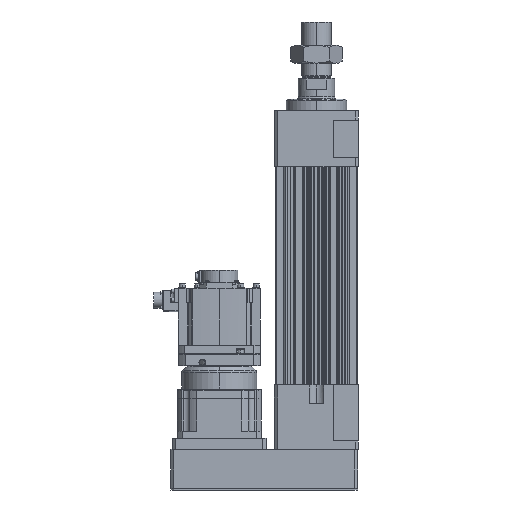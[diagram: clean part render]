
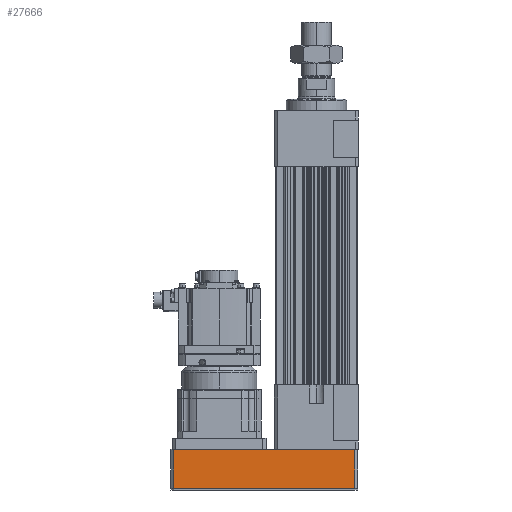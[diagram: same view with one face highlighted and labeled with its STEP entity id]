
A CAD part, left-side view. The second image highlights one B-rep face of the part: STEP entity #27666.
In plain terms, the highlighted planar face has unit normal (-1, 0, 0).
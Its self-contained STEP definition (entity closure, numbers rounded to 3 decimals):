
#951 = DIRECTION ( 'NONE',  ( 0., 1., 0. ) ) ;
#1787 = VECTOR ( 'NONE', #41465, 1000. ) ;
#4509 = DIRECTION ( 'NONE',  ( 0., 0., 1. ) ) ;
#4568 = CARTESIAN_POINT ( 'NONE',  ( -88., 306., -222. ) ) ;
#4962 = LINE ( 'NONE', #4568, #1787 ) ;
#5407 = EDGE_CURVE ( 'NONE', #10967, #29726, #19072, .T. ) ;
#6826 = EDGE_LOOP ( 'NONE', ( #33260, #50425, #41342, #44965 ) ) ;
#7740 = DIRECTION ( 'NONE',  ( 0., 0., -1. ) ) ;
#9152 = CARTESIAN_POINT ( 'NONE',  ( -88., -82., -221.5 ) ) ;
#10188 = AXIS2_PLACEMENT_3D ( 'NONE', #40683, #16099, #7740 ) ;
#10967 = VERTEX_POINT ( 'NONE', #33816 ) ;
#12024 = PLANE ( 'NONE',  #10188 ) ;
#14066 = FACE_OUTER_BOUND ( 'NONE', #6826, .T. ) ;
#16099 = DIRECTION ( 'NONE',  ( 1., 0., 0. ) ) ;
#17312 = DIRECTION ( 'NONE',  ( 0., -1., 0. ) ) ;
#19072 = LINE ( 'NONE', #33176, #51848 ) ;
#19211 = LINE ( 'NONE', #49329, #35327 ) ;
#21372 = CARTESIAN_POINT ( 'NONE',  ( -88., -82., -221.5 ) ) ;
#25112 = VECTOR ( 'NONE', #17312, 1000. ) ;
#25522 = VERTEX_POINT ( 'NONE', #35321 ) ;
#25921 = CARTESIAN_POINT ( 'NONE',  ( -88., 306., -138.5 ) ) ;
#27666 = ADVANCED_FACE ( 'NONE', ( #14066 ), #12024, .F. ) ;
#29726 = VERTEX_POINT ( 'NONE', #25921 ) ;
#32417 = EDGE_CURVE ( 'NONE', #25522, #40467, #43778, .T. ) ;
#33176 = CARTESIAN_POINT ( 'NONE',  ( -88., -82., -138.5 ) ) ;
#33260 = ORIENTED_EDGE ( 'NONE', *, *, #38874, .F. ) ;
#33816 = CARTESIAN_POINT ( 'NONE',  ( -88., -82., -138.5 ) ) ;
#35321 = CARTESIAN_POINT ( 'NONE',  ( -88., 306., -221.5 ) ) ;
#35327 = VECTOR ( 'NONE', #4509, 1000. ) ;
#38874 = EDGE_CURVE ( 'NONE', #25522, #29726, #4962, .T. ) ;
#39419 = EDGE_CURVE ( 'NONE', #40467, #10967, #19211, .T. ) ;
#40467 = VERTEX_POINT ( 'NONE', #21372 ) ;
#40683 = CARTESIAN_POINT ( 'NONE',  ( -88., -82., -222. ) ) ;
#41342 = ORIENTED_EDGE ( 'NONE', *, *, #39419, .T. ) ;
#41465 = DIRECTION ( 'NONE',  ( 0., 0., 1. ) ) ;
#43778 = LINE ( 'NONE', #9152, #25112 ) ;
#44965 = ORIENTED_EDGE ( 'NONE', *, *, #5407, .T. ) ;
#49329 = CARTESIAN_POINT ( 'NONE',  ( -88., -82., -222. ) ) ;
#50425 = ORIENTED_EDGE ( 'NONE', *, *, #32417, .T. ) ;
#51848 = VECTOR ( 'NONE', #951, 1000. ) ;
